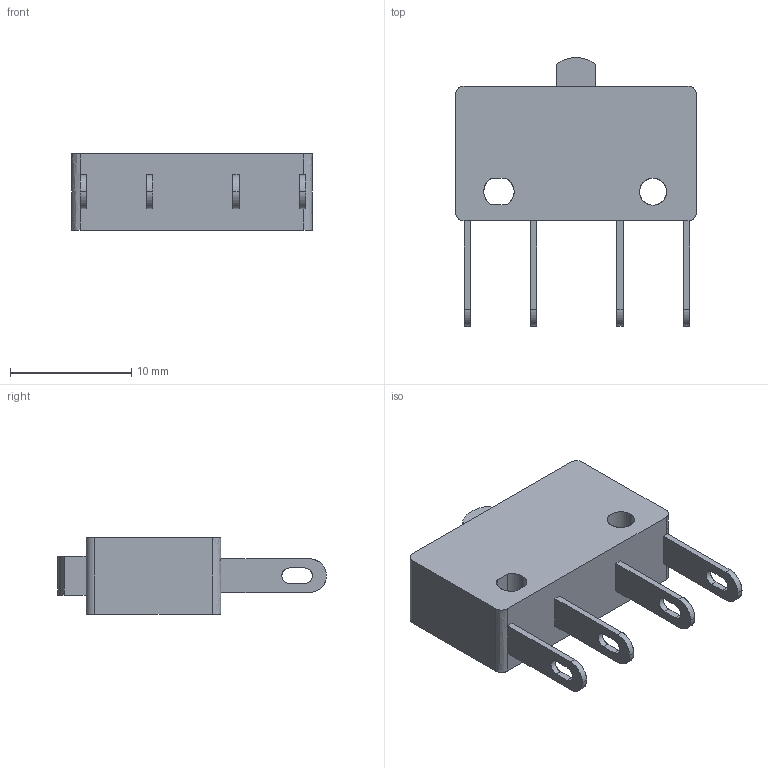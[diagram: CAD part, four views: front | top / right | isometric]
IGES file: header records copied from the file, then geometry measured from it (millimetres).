
Start section: SolidWorks IGES file using analytic representation for surfaces
Global section: file name: Z:\Drawing Masters\Switches\main assembly dwg\3D Files\16-439088.IGS; native system: SolidWorks 2015; preprocessor: SolidWorks 2015; author: Alan_B; date: 150518.162535; units: millimetre
Bounding box: 19.85 x 22.15 x 6.3 mm (x, y, z)
Surface area: 1135.1 mm2 (no closed solid volume)
Topology: 0 solids, 0 shells, 67 faces, 704 edges, 704 vertices
Faces by surface type: bspline 37, revolution 30
